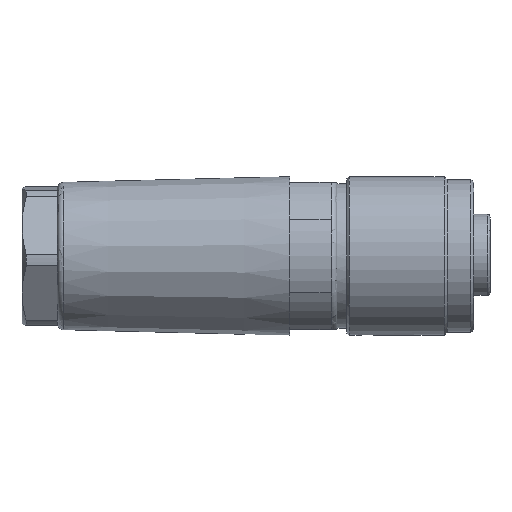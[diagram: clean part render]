
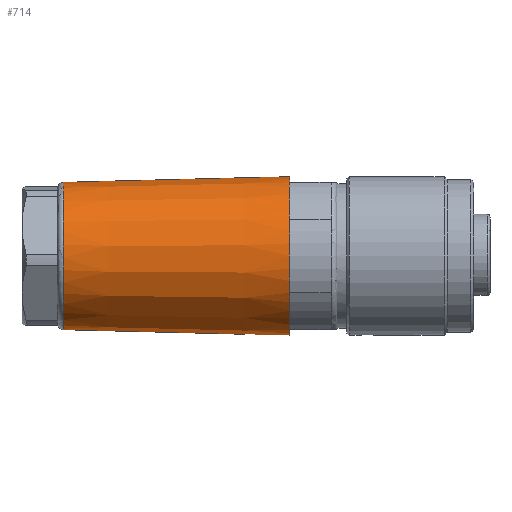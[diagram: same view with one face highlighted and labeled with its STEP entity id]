
A CAD part, left-side view. The second image highlights one B-rep face of the part: STEP entity #714.
In plain terms, the highlighted conical face has half-angle 1.45 degrees and reference radius 13.5 mm.
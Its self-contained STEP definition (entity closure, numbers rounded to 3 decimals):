
#714 = ADVANCED_FACE( '', ( #1933, #1934 ), #1935, .T. );
#1933 = FACE_OUTER_BOUND( '', #3849, .T. );
#1934 = FACE_BOUND( '', #3850, .T. );
#1935 = CONICAL_SURFACE( '', #3851, 13.5, 0.025 );
#3849 = EDGE_LOOP( '', ( #5756, #5757, #5758, #5759, #5760, #5761, #5762, #5763 ) );
#3850 = EDGE_LOOP( '', ( #5764 ) );
#3851 = AXIS2_PLACEMENT_3D( '', #5765, #5766, #5767 );
#5756 = ORIENTED_EDGE( '', *, *, #10941, .F. );
#5757 = ORIENTED_EDGE( '', *, *, #10942, .F. );
#5758 = ORIENTED_EDGE( '', *, *, #10943, .F. );
#5759 = ORIENTED_EDGE( '', *, *, #10944, .F. );
#5760 = ORIENTED_EDGE( '', *, *, #10945, .F. );
#5761 = ORIENTED_EDGE( '', *, *, #10946, .F. );
#5762 = ORIENTED_EDGE( '', *, *, #10947, .F. );
#5763 = ORIENTED_EDGE( '', *, *, #10948, .F. );
#5764 = ORIENTED_EDGE( '', *, *, #10949, .T. );
#5765 = CARTESIAN_POINT( '', ( 0.111, 24., 0. ) );
#5766 = DIRECTION( '', ( 0., -1., 0. ) );
#5767 = DIRECTION( '', ( 0., 0., 1. ) );
#10941 = EDGE_CURVE( '', #12990, #12991, #12992, .T. );
#10942 = EDGE_CURVE( '', #12993, #12990, #12994, .T. );
#10943 = EDGE_CURVE( '', #12995, #12993, #12996, .T. );
#10944 = EDGE_CURVE( '', #12997, #12995, #12998, .T. );
#10945 = EDGE_CURVE( '', #12999, #12997, #13000, .T. );
#10946 = EDGE_CURVE( '', #13001, #12999, #13002, .T. );
#10947 = EDGE_CURVE( '', #13003, #13001, #13004, .T. );
#10948 = EDGE_CURVE( '', #12991, #13003, #13005, .T. );
#10949 = EDGE_CURVE( '', #13006, #13006, #13007, .T. );
#12990 = VERTEX_POINT( '', #15971 );
#12991 = VERTEX_POINT( '', #15972 );
#12992 = CIRCLE( '', #15973, 13.5 );
#12993 = VERTEX_POINT( '', #15974 );
#12994 = CIRCLE( '', #15975, 13.5 );
#12995 = VERTEX_POINT( '', #15976 );
#12996 = CIRCLE( '', #15977, 13.5 );
#12997 = VERTEX_POINT( '', #15978 );
#12998 = CIRCLE( '', #15979, 13.5 );
#12999 = VERTEX_POINT( '', #15980 );
#13000 = CIRCLE( '', #15981, 13.5 );
#13001 = VERTEX_POINT( '', #15982 );
#13002 = CIRCLE( '', #15983, 13.5 );
#13003 = VERTEX_POINT( '', #15984 );
#13004 = CIRCLE( '', #15985, 13.5 );
#13005 = CIRCLE( '', #15986, 13.5 );
#13006 = VERTEX_POINT( '', #15987 );
#13007 = CIRCLE( '', #15988, 12.525 );
#15971 = CARTESIAN_POINT( '', ( -4.988, 24., 12.5 ) );
#15972 = CARTESIAN_POINT( '', ( -11.855, 24., 6.25 ) );
#15973 = AXIS2_PLACEMENT_3D( '', #22294, #22295, #22296 );
#15974 = CARTESIAN_POINT( '', ( 5.21, 24., 12.5 ) );
#15975 = AXIS2_PLACEMENT_3D( '', #22297, #22298, #22299 );
#15976 = CARTESIAN_POINT( '', ( 12.077, 24., 6.25 ) );
#15977 = AXIS2_PLACEMENT_3D( '', #22300, #22301, #22302 );
#15978 = CARTESIAN_POINT( '', ( 12.077, 24., -6.25 ) );
#15979 = AXIS2_PLACEMENT_3D( '', #22303, #22304, #22305 );
#15980 = CARTESIAN_POINT( '', ( 5.21, 24., -12.5 ) );
#15981 = AXIS2_PLACEMENT_3D( '', #22306, #22307, #22308 );
#15982 = CARTESIAN_POINT( '', ( -4.988, 24., -12.5 ) );
#15983 = AXIS2_PLACEMENT_3D( '', #22309, #22310, #22311 );
#15984 = CARTESIAN_POINT( '', ( -11.855, 24., -6.25 ) );
#15985 = AXIS2_PLACEMENT_3D( '', #22312, #22313, #22314 );
#15986 = AXIS2_PLACEMENT_3D( '', #22315, #22316, #22317 );
#15987 = CARTESIAN_POINT( '', ( 0.111, 62.525, -12.525 ) );
#15988 = AXIS2_PLACEMENT_3D( '', #22318, #22319, #22320 );
#22294 = CARTESIAN_POINT( '', ( 0.111, 24., 0. ) );
#22295 = DIRECTION( '', ( 0., -1., 0. ) );
#22296 = DIRECTION( '', ( 0., 0., 1. ) );
#22297 = CARTESIAN_POINT( '', ( 0.111, 24., 0. ) );
#22298 = DIRECTION( '', ( 0., -1., 0. ) );
#22299 = DIRECTION( '', ( 0., 0., 1. ) );
#22300 = CARTESIAN_POINT( '', ( 0.111, 24., 0. ) );
#22301 = DIRECTION( '', ( 0., -1., 0. ) );
#22302 = DIRECTION( '', ( 0., 0., 1. ) );
#22303 = CARTESIAN_POINT( '', ( 0.111, 24., 0. ) );
#22304 = DIRECTION( '', ( 0., -1., 0. ) );
#22305 = DIRECTION( '', ( 0., 0., 1. ) );
#22306 = CARTESIAN_POINT( '', ( 0.111, 24., 0. ) );
#22307 = DIRECTION( '', ( 0., -1., 0. ) );
#22308 = DIRECTION( '', ( 0., 0., 1. ) );
#22309 = CARTESIAN_POINT( '', ( 0.111, 24., 0. ) );
#22310 = DIRECTION( '', ( 0., -1., 0. ) );
#22311 = DIRECTION( '', ( 0., 0., 1. ) );
#22312 = CARTESIAN_POINT( '', ( 0.111, 24., 0. ) );
#22313 = DIRECTION( '', ( 0., -1., 0. ) );
#22314 = DIRECTION( '', ( 0., 0., 1. ) );
#22315 = CARTESIAN_POINT( '', ( 0.111, 24., 0. ) );
#22316 = DIRECTION( '', ( 0., -1., 0. ) );
#22317 = DIRECTION( '', ( 0., 0., 1. ) );
#22318 = CARTESIAN_POINT( '', ( 0.111, 62.525, 0. ) );
#22319 = DIRECTION( '', ( 0., -1., 0. ) );
#22320 = DIRECTION( '', ( 0., 0., -1. ) );
